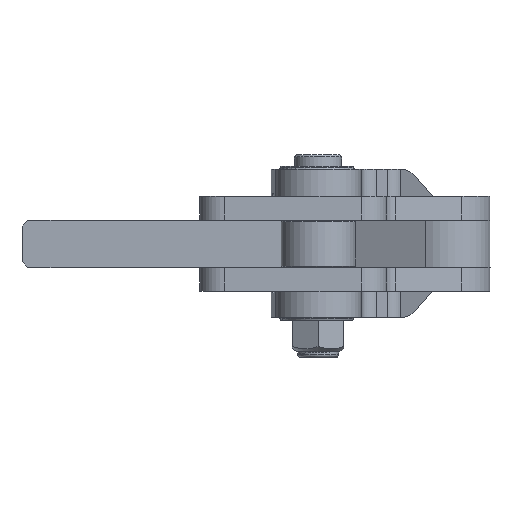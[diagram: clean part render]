
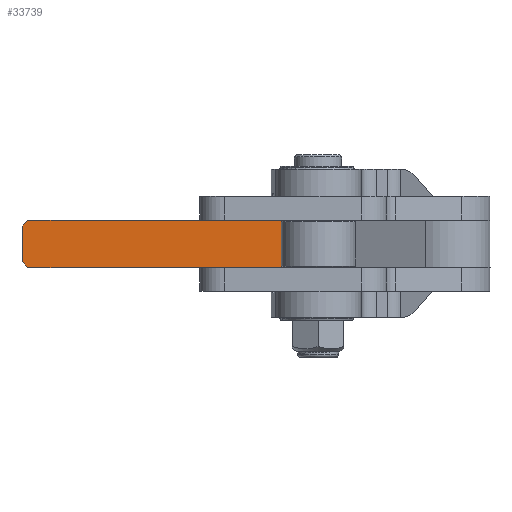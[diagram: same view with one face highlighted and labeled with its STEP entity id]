
A CAD part, front view. The second image highlights one B-rep face of the part: STEP entity #33739.
In plain terms, the highlighted planar face has unit normal (0, -1, 0).
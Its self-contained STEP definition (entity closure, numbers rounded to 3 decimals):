
#805=PLANE('',#36185);
#2763=FACE_OUTER_BOUND('',#4701,.T.);
#4701=EDGE_LOOP('',(#25175,#25176,#25177,#25178,#25179,#25180));
#6851=LINE('',#51599,#10085);
#6854=LINE('',#51605,#10088);
#6860=LINE('',#51622,#10094);
#6864=LINE('',#51631,#10098);
#6866=LINE('',#51635,#10100);
#6867=LINE('',#51636,#10101);
#10085=VECTOR('',#41326,1000.);
#10088=VECTOR('',#41331,1000.);
#10094=VECTOR('',#41345,1000.);
#10098=VECTOR('',#41353,1000.);
#10100=VECTOR('',#41357,1000.);
#10101=VECTOR('',#41358,1000.);
#15072=VERTEX_POINT('',#51596);
#15073=VERTEX_POINT('',#51598);
#15075=VERTEX_POINT('',#51604);
#15082=VERTEX_POINT('',#51620);
#15085=VERTEX_POINT('',#51630);
#15086=VERTEX_POINT('',#51634);
#18885=EDGE_CURVE('',#15072,#15073,#6851,.T.);
#18888=EDGE_CURVE('',#15073,#15075,#6854,.T.);
#18897=EDGE_CURVE('',#15082,#15072,#6860,.T.);
#18901=EDGE_CURVE('',#15075,#15085,#6864,.T.);
#18903=EDGE_CURVE('',#15086,#15082,#6866,.T.);
#18904=EDGE_CURVE('',#15085,#15086,#6867,.T.);
#25175=ORIENTED_EDGE('',*,*,#18885,.F.);
#25176=ORIENTED_EDGE('',*,*,#18897,.F.);
#25177=ORIENTED_EDGE('',*,*,#18903,.F.);
#25178=ORIENTED_EDGE('',*,*,#18904,.F.);
#25179=ORIENTED_EDGE('',*,*,#18901,.F.);
#25180=ORIENTED_EDGE('',*,*,#18888,.F.);
#33739=ADVANCED_FACE('',(#2763),#805,.F.);
#36185=AXIS2_PLACEMENT_3D('',#51633,#41355,#41356);
#41326=DIRECTION('',(-0.707,0.,0.707));
#41331=DIRECTION('',(0.,0.,1.));
#41345=DIRECTION('',(-1.,0.,0.));
#41353=DIRECTION('',(0.707,0.,0.707));
#41355=DIRECTION('center_axis',(0.,1.,0.));
#41356=DIRECTION('ref_axis',(-1.,0.,0.));
#41357=DIRECTION('',(0.,0.,-1.));
#41358=DIRECTION('',(1.,0.,0.));
#51596=CARTESIAN_POINT('',(-141.,5.,-8.));
#51598=CARTESIAN_POINT('',(-143.,5.,-6.));
#51599=CARTESIAN_POINT('',(-143.,5.,-6.));
#51604=CARTESIAN_POINT('',(-143.,5.,6.));
#51605=CARTESIAN_POINT('',(-143.,5.,0.));
#51620=CARTESIAN_POINT('',(-44.459,5.,-8.));
#51622=CARTESIAN_POINT('',(-93.729,5.,-8.));
#51630=CARTESIAN_POINT('',(-141.,5.,8.));
#51631=CARTESIAN_POINT('',(-143.,5.,6.));
#51633=CARTESIAN_POINT('Origin',(-44.459,5.,-8.));
#51634=CARTESIAN_POINT('',(-44.459,5.,8.));
#51635=CARTESIAN_POINT('',(-44.459,5.,0.));
#51636=CARTESIAN_POINT('',(-62.532,5.,8.));
